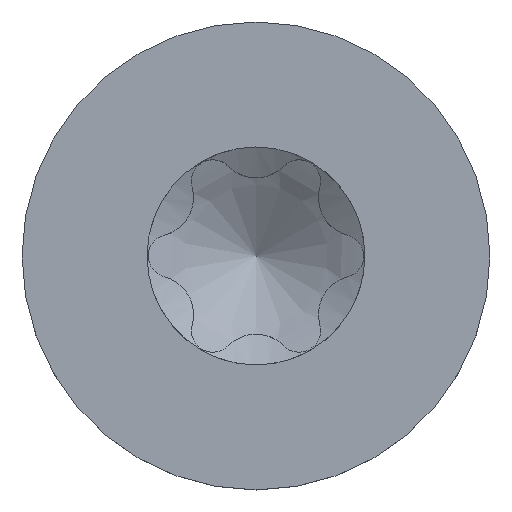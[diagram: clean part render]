
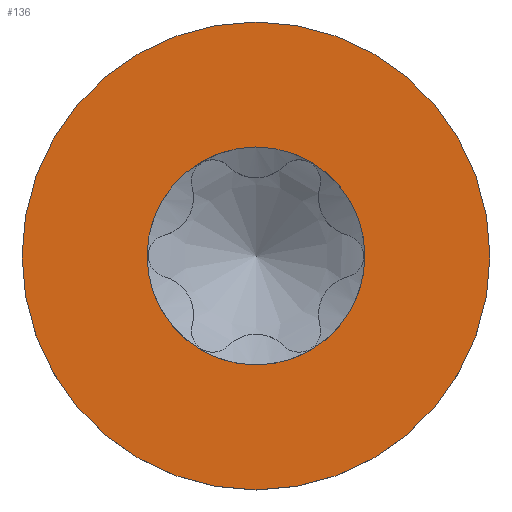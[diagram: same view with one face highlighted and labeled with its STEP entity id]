
A CAD part, top view. The second image highlights one B-rep face of the part: STEP entity #136.
In plain terms, the highlighted planar face has unit normal (0, 0, 1).
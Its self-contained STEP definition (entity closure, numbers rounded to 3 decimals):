
#81=PLANE('',#577);
#136=ADVANCED_FACE('',(#218,#219),#81,.T.);
#218=FACE_BOUND('',#240,.T.);
#219=FACE_BOUND('',#241,.T.);
#240=EDGE_LOOP('',(#301));
#241=EDGE_LOOP('',(#302));
#301=ORIENTED_EDGE('',*,*,#497,.T.);
#302=ORIENTED_EDGE('',*,*,#496,.F.);
#440=VERTEX_POINT('',#1013);
#441=VERTEX_POINT('',#1016);
#496=EDGE_CURVE('',#440,#440,#555,.T.);
#497=EDGE_CURVE('',#441,#441,#556,.T.);
#555=CIRCLE('',#574,1.9);
#556=CIRCLE('',#576,0.885);
#574=AXIS2_PLACEMENT_3D('',#1012,#627,#628);
#576=AXIS2_PLACEMENT_3D('',#1015,#631,#632);
#577=AXIS2_PLACEMENT_3D('',#1017,#633,#634);
#627=DIRECTION('',(0.,0.,-1.));
#628=DIRECTION('',(0.,1.,0.));
#631=DIRECTION('',(0.,0.,-1.));
#632=DIRECTION('',(0.,-1.,0.));
#633=DIRECTION('',(0.,0.,1.));
#634=DIRECTION('',(0.,-1.,0.));
#1012=CARTESIAN_POINT('',(0.,0.,1.5));
#1013=CARTESIAN_POINT('',(0.,1.9,1.5));
#1015=CARTESIAN_POINT('',(0.,0.,1.5));
#1016=CARTESIAN_POINT('',(0.,-0.885,1.5));
#1017=CARTESIAN_POINT('',(0.,1.9,1.5));
